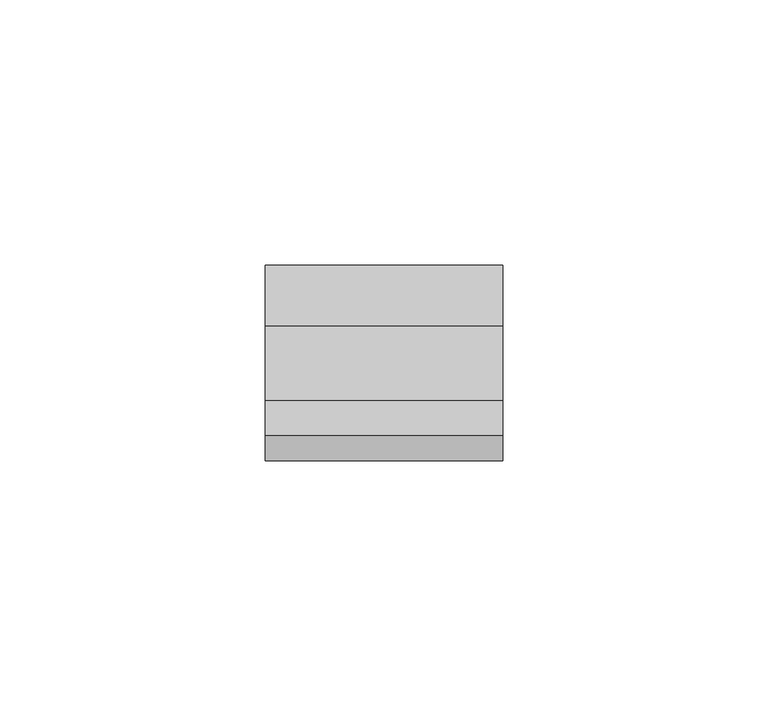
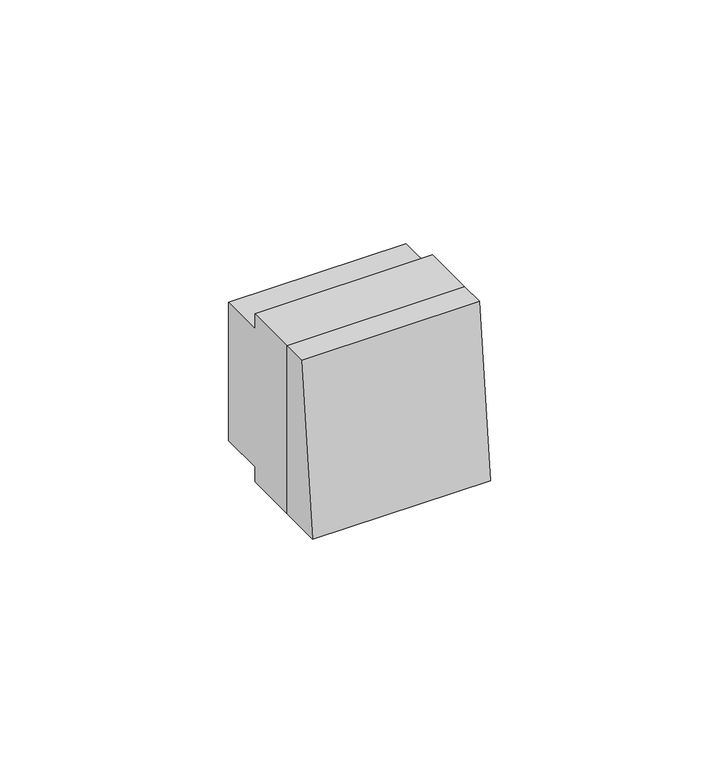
"""IFC4 building model written with IfcOpenShell, lengths in millimetres: proxy geometry."""

from ifc_helpers import new_model, si_unit, frame, origin, place, context, project, spatial, polyline, outline, extrude, source, transform, mapped, element, save


def electrical_fixtures_b6adcdca(model_context):
    return source(origin(), model_context, "Body", "SweptSolid", [
        extrude(outline(polyline([(-41.1929514, 22.45), (-34.7, 22.45), (-34.7, 16.4732313), (-34.7, -22.45), (-46.0, -22.45), (-41.1929514, 22.45)])), frame((0.0, 0.0, 0.0), z_axis=(1.0, 0.0, 0.0), x_axis=(0.0, 1.0, 0.0)), (0.0, 0.0, 1.0), 44.9),
        extrude(outline(polyline([(-20.7, 22.45), (-20.7, 18.45), (-9.1, 18.45), (-9.1, -18.45), (-20.7, -18.45), (-20.7, -22.45), (-34.7, -22.45), (-34.7, 22.45), (-20.7, 22.45)])), frame((0.0, 0.0, 0.0), z_axis=(1.0, 0.0, 0.0), x_axis=(0.0, 1.0, 0.0)), (0.0, 0.0, 1.0), 44.9),
    ])


if __name__ == "__main__":
    model = new_model("IFC4")
    model_context = context("Model", 3, world=origin())
    ifc_project = project(units=[si_unit("LENGTHUNIT", "METRE", prefix="MILLI")], contexts=[model_context])
    site = spatial("IfcSite", under=ifc_project)
    building = spatial("IfcBuilding", under=site)
    placement = place(None, origin())
    electrical_fixtures_shape = electrical_fixtures_b6adcdca(model_context)
    element("IfcBuildingElementProxy", 1, Name="Electrical Fixtures", at=placement, inside=building, context=model_context, shape_type="MappedRepresentation", body=[
        mapped(electrical_fixtures_shape, transform((0.0, 0.0, 0.0), x_axis=(1.0, 0.0, 0.0), y_axis=(0.0, 1.0, 0.0), z_axis=(0.0, 0.0, 1.0))),
    ])
    save(model, "model.ifc")
